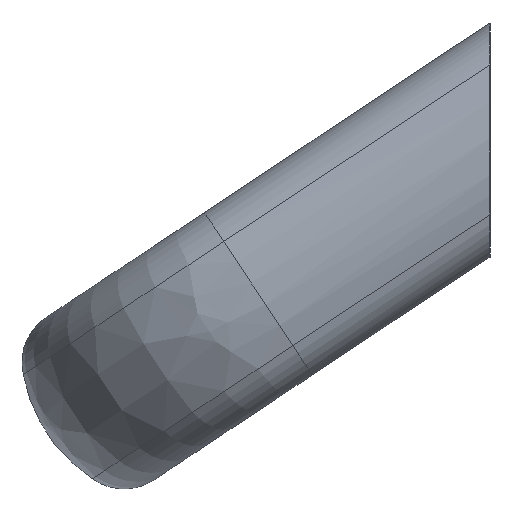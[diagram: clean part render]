
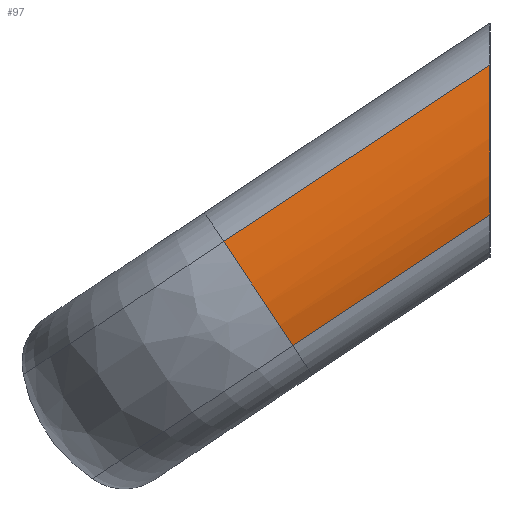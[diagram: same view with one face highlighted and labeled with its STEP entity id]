
A CAD part, left-side view. The second image highlights one B-rep face of the part: STEP entity #97.
In plain terms, the highlighted cylindrical face has radius 16.199 mm (diameter 32.399 mm), a partial arc.
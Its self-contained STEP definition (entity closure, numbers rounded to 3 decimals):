
#97 = ADVANCED_FACE( '', ( #154 ), #155, .T. );
#154 = FACE_OUTER_BOUND( '', #262, .T. );
#155 = CYLINDRICAL_SURFACE( '', #263, 16.199 );
#262 = EDGE_LOOP( '', ( #418, #419, #420, #421 ) );
#263 = AXIS2_PLACEMENT_3D( '', #422, #423, #424 );
#418 = ORIENTED_EDGE( '', *, *, #506, .F. );
#419 = ORIENTED_EDGE( '', *, *, #497, .T. );
#420 = ORIENTED_EDGE( '', *, *, #505, .T. );
#421 = ORIENTED_EDGE( '', *, *, #471, .F. );
#422 = CARTESIAN_POINT( '', ( -46.301, -16.249, 12.278 ) );
#423 = DIRECTION( '', ( 0., -0.833, 0.553 ) );
#424 = DIRECTION( '', ( 0., 0.553, 0.833 ) );
#471 = EDGE_CURVE( '', #534, #529, #536, .T. );
#497 = EDGE_CURVE( '', #575, #573, #576, .F. );
#505 = EDGE_CURVE( '', #573, #529, #585, .T. );
#506 = EDGE_CURVE( '', #575, #534, #586, .T. );
#529 = VERTEX_POINT( '', #612 );
#534 = VERTEX_POINT( '', #617 );
#536 = CIRCLE( '', #619, 16.199 );
#573 = VERTEX_POINT( '', #660 );
#575 = VERTEX_POINT( '', #662 );
#576 = ELLIPSE( '', #663, 19.439, 16.199 );
#585 = LINE( '', #674, #675 );
#586 = LINE( '', #676, #677 );
#612 = CARTESIAN_POINT( '', ( -61.179, 27.294, -8.915 ) );
#617 = CARTESIAN_POINT( '', ( -61.179, 20.209, -19.595 ) );
#619 = AXIS2_PLACEMENT_3D( '', #716, #717, #718 );
#660 = CARTESIAN_POINT( '', ( -61.179, 0., 9.19 ) );
#662 = CARTESIAN_POINT( '', ( -61.179, 0., -6.19 ) );
#663 = AXIS2_PLACEMENT_3D( '', #786, #787, #788 );
#674 = CARTESIAN_POINT( '', ( -61.179, -12.706, 17.618 ) );
#675 = VECTOR( '', #803, 1000. );
#676 = CARTESIAN_POINT( '', ( -61.179, -19.791, 6.938 ) );
#677 = VECTOR( '', #804, 1000. );
#716 = CARTESIAN_POINT( '', ( -46.301, 23.751, -14.255 ) );
#717 = DIRECTION( '', ( 0., 0.833, -0.553 ) );
#718 = DIRECTION( '', ( -0.553, -0.461, -0.694 ) );
#786 = CARTESIAN_POINT( '', ( -46.301, 0., 1.5 ) );
#787 = DIRECTION( '', ( 0., -1., 0. ) );
#788 = DIRECTION( '', ( 0., 0., -1. ) );
#803 = DIRECTION( '', ( 0., 0.833, -0.553 ) );
#804 = DIRECTION( '', ( 0., 0.833, -0.553 ) );
